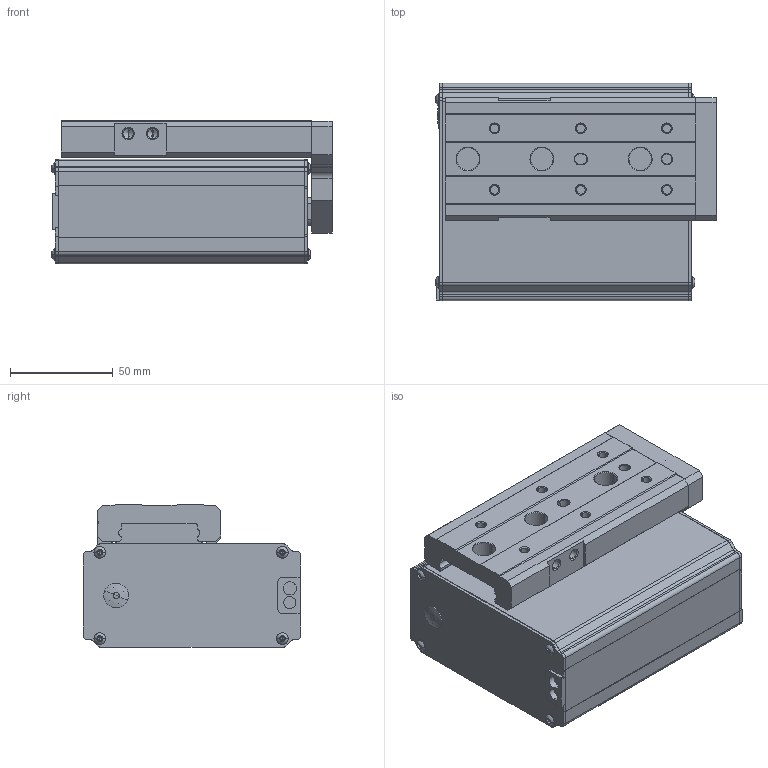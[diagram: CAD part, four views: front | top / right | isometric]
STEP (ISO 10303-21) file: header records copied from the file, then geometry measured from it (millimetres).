
FILE_DESCRIPTION (( 'STEP AP203' ), '1' );
FILE_NAME ('CSS20L-2-50.STEP', '2025-03-04T02:48:25', ( '微软用户' ), ( '微软中国' ), 'SwSTEP 2.0', 'SolidWorks 2018', '' );
FILE_SCHEMA (( 'CONFIG_CONTROL_DESIGN' ));
Length unit declared in the file: millimetre
Products named in the file (12): 复件 SVS-WS2-RB24011L-P005  盖板1（电机端）^CSS20L-2-50（WS2）; 复件 SVS-WS2-RB24011L-P006  盖板2^CSS20L-2-50（WS2）; 复件 SVS-WS2-RB24011L-B007  堵头塞子（靓亿家五金店 φ8宽边带槽型  淘宝）^CSS20L-2-50（WS2）; 复件 SVS-WS2-RB24011L-P003  安装板（左折）^CSS20L-2-50（WS2）; CSS20L-2-50; 复件 SVS-WS2-RB24011L-B002-02  导轨 MXQ20-50 借SVS-WS-RB24055-B002-02^CSS20L-2-50（WS2）; socket button head screw_iso_ISO 7380 - M3 x 8 - 8N; 复件 SVS-WS2-RB24011L-P009  固线块（借SVS-WS-RB24042-P007）^CSS20L-2-50（WS2）; 复件 SVS-WS2-RB24011L-P004  空心圆杆（ST=50）^CSS20L-2-50（WS2）; 复件 内六角杯头螺钉M5-10^CSS20L-2-50（WS2）; 复件 内六角杯头螺钉M4-10^CSS20L-2-50（WS2）; 复件 SVS-WS2-RB24011L-P001-02  FRAME（左折 全包，ST=50）^CSS20L-2-50（WS2）
Assembly tree (19 placements, depth 2):
  CSS20L-2-50
    复件 SVS-WS2-RB24011L-P001-02  FRAME（左折 全包，ST=50）^CSS20L-2-50（WS2）
    复件 SVS-WS2-RB24011L-P003  安装板（左折）^CSS20L-2-50（WS2）
    复件 SVS-WS2-RB24011L-P004  空心圆杆（ST=50）^CSS20L-2-50（WS2）
    复件 SVS-WS2-RB24011L-P005  盖板1（电机端）^CSS20L-2-50（WS2）
    复件 SVS-WS2-RB24011L-P006  盖板2^CSS20L-2-50（WS2）
    复件 SVS-WS2-RB24011L-P009  固线块（借SVS-WS-RB24042-P007）^CSS20L-2-50（WS2）
    复件 SVS-WS2-RB24011L-B002-02  导轨 MXQ20-50 借SVS-WS-RB24055-B002-02^CSS20L-2-50（WS2）
    复件 SVS-WS2-RB24011L-B007  堵头塞子（靓亿家五金店 φ8宽边带槽型  淘宝）^CSS20L-2-50（WS2）
    复件 内六角杯头螺钉M4-10^CSS20L-2-50（WS2）
    复件 内六角杯头螺钉M5-10^CSS20L-2-50（WS2）  x2
    socket button head screw_iso_ISO 7380 - M3 x 8 - 8N  x8
Bounding box: 136.65 x 106 x 70 mm (x, y, z)
Volume: 715842.5 mm3; surface area: 118525.8 mm2
Topology: 19 solids, 19 shells, 739 faces, 1834 edges, 1134 vertices
Faces by surface type: plane 320, cylinder 240, cone 133, torus 28, sphere 18
Entity records: 17783 total; most frequent: DIRECTION 2961, CARTESIAN_POINT 2931, ORIENTED_EDGE 2668, EDGE_CURVE 1334, AXIS2_PLACEMENT_3D 1085, VERTEX_POINT 863, VECTOR 791, LINE 791
